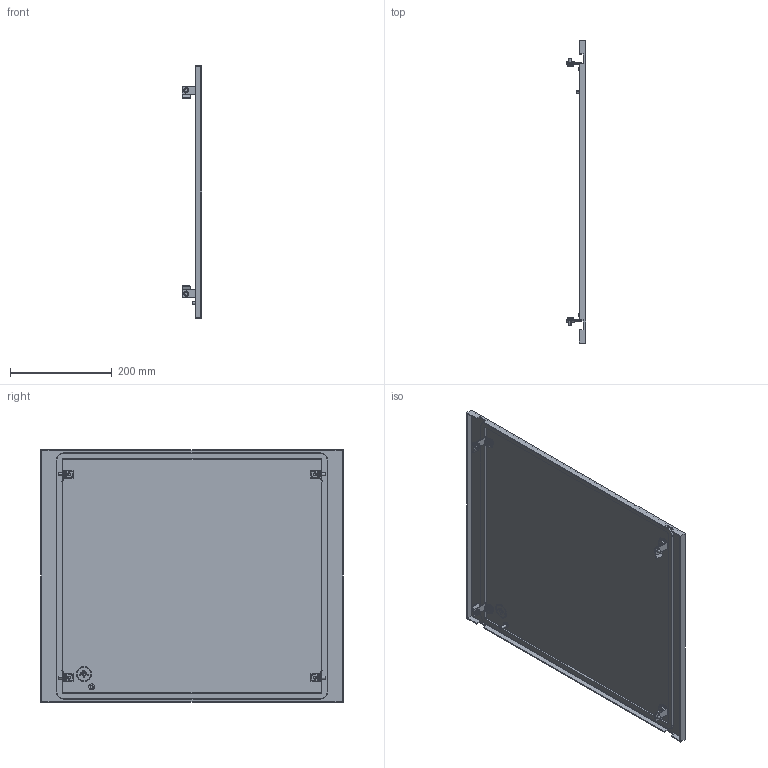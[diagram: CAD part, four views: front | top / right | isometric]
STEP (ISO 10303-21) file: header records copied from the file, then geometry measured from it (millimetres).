
FILE_DESCRIPTION (( 'STEP AP214' ), '1' );
FILE_NAME ('FO-00-PWSB-050-060 Ôàëüø-ïàíåëü âíåøíÿÿ ãëóõàÿ 500õ600 ìì.STEP', '2025-08-25T08:17:35', ( '' ), ( '' ), 'SwSTEP 2.0', 'SolidWorks 2023', '' );
FILE_SCHEMA (( 'AUTOMOTIVE_DESIGN' ));
Length unit declared in the file: millimetre
Products named in the file (1): FO-00-PWSB-050-060 Фальш-панель внешняя глухая 500х600 мм
Bounding box: 38.5 x 595 x 496 mm (x, y, z)
Volume: 716329.2 mm3; surface area: 663257.6 mm2
Topology: 1 solids, 10 shells, 841 faces, 2078 edges, 1277 vertices
Faces by surface type: plane 525, cylinder 202, cone 90, torus 24
Entity records: 25131 total; most frequent: CARTESIAN_POINT 4843, DIRECTION 4336, ORIENTED_EDGE 4152, EDGE_CURVE 2076, AXIS2_PLACEMENT_3D 1482, VECTOR 1372, LINE 1372, VERTEX_POINT 1277
